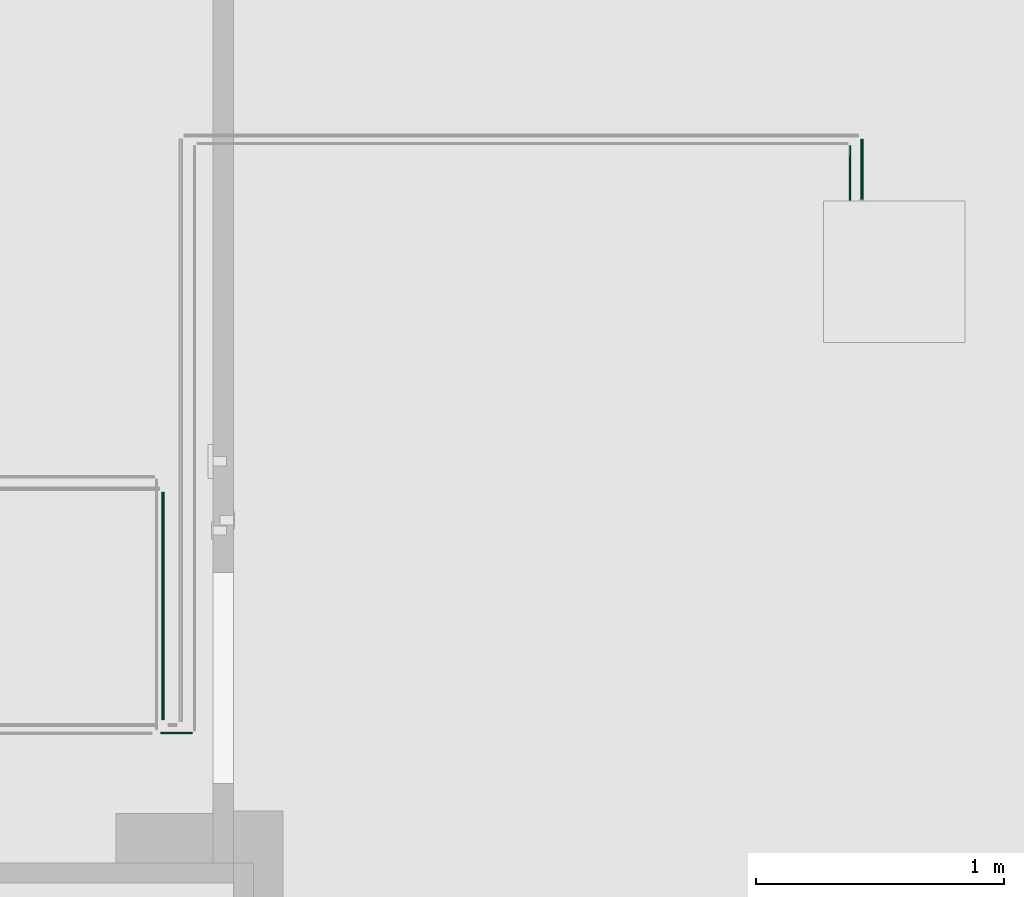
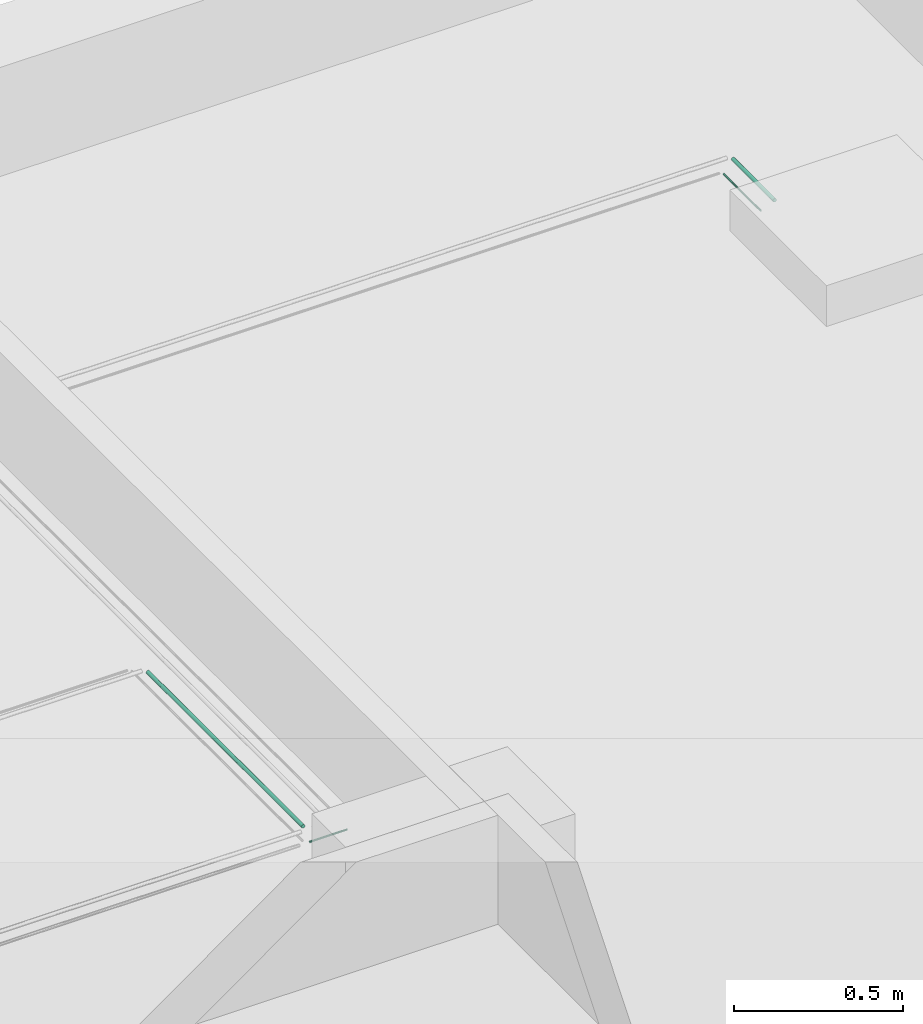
# One storey, part 12 of 22: 4 flow segments.
"""IFC2X3 building model written with IfcOpenShell, lengths in millimetres."""

import ifcopenshell
import ifcopenshell.guid

model = None  # the IFC model being written
_history = None  # IfcOwnerHistory: only IFC2X3 demands one
_inside = {}  # id of a spatial element -> (the spatial element, [elements in it])
_under = {}  # id of a project, library or spatial element -> (it, [spatial elements below it])
_declared = {}  # id of a project -> (the project, [libraries it declares])
_typed = {}  # id of a type object -> (the type object, [elements of that type])
_made_of = {}  # id of a material, layer set ... -> (it, [elements and type objects made of it])


def new_model(schema):
    """Start an empty IFC model of exactly this schema.

    Asked for "IFC4X3", IfcOpenShell would pick the latest addendum, in which some entities
    have other attributes; the version numbers below select the first issue.
    IFC2X3 requires an IfcOwnerHistory on every rooted entity: one is made here for all.
    """
    global model, _history
    if schema == "IFC4X3":
        model = ifcopenshell.file(schema_version=(4, 3, 0, 0))
    else:
        model = ifcopenshell.file(schema=schema)
    _inside.clear()
    _under.clear()
    _declared.clear()
    _typed.clear()
    _made_of.clear()
    _history = None
    if model.schema == "IFC2X3":
        org = make("IfcOrganization", Name="unknown")
        user = make(
            "IfcPersonAndOrganization",
            ThePerson=make("IfcPerson", FamilyName="unknown"),
            TheOrganization=org,
        )
        app = make(
            "IfcApplication",
            ApplicationDeveloper=org,
            Version="unknown",
            ApplicationFullName="unknown",
            ApplicationIdentifier="unknown",
        )
        _history = make(
            "IfcOwnerHistory",
            OwningUser=user,
            OwningApplication=app,
            ChangeAction="ADDED",
            CreationDate=0,
        )
    return model


def make(cls, **values):
    """One entity of the class cls with the attributes given. An attribute that is None is left unset."""
    return model.create_entity(
        cls, **{name: value for name, value in values.items() if value is not None}
    )


def entity(cls, *values):
    """Any entity or typed value of the class cls, its attributes in the order of the schema. None: left unset."""
    e = model.create_entity(cls)
    for i, value in enumerate(values):
        if value is not None:
            e[i] = value
    return e


def rooted(cls, **values):
    """An entity with a GlobalId (a new one), such as an element, a storey or a relation."""
    return make(cls, GlobalId=ifcopenshell.guid.new(), OwnerHistory=_history, **values)


def si_unit(unit_type, name, prefix=None):
    """IfcSIUnit, for example si_unit("LENGTHUNIT", "METRE", prefix="MILLI")."""
    return make("IfcSIUnit", UnitType=unit_type, Prefix=prefix, Name=name)


def converted_unit(unit_type, name, factor, base, dimensions=None, offset=None):
    """IfcConversionBasedUnit, such as the inch: factor (a typed value) times the base unit."""
    return make(
        "IfcConversionBasedUnit"
        if offset is None
        else "IfcConversionBasedUnitWithOffset",
        ConversionOffset=offset,
        Dimensions=None
        if dimensions is None
        else entity("IfcDimensionalExponents", *dimensions),
        UnitType=unit_type,
        Name=name,
        ConversionFactor=make(
            "IfcMeasureWithUnit", ValueComponent=factor, UnitComponent=base
        ),
    )


def derived_unit(unit_type, elements):
    """IfcDerivedUnit: a product of units, each with its exponent."""
    return make(
        "IfcDerivedUnit",
        Elements=[
            make("IfcDerivedUnitElement", Unit=unit, Exponent=power)
            for unit, power in elements
        ],
        UnitType=unit_type,
    )


def assignment(units):
    """IfcUnitAssignment: the units of a project."""
    return None if units is None else make("IfcUnitAssignment", Units=units)


def point(xyz):
    """IfcCartesianPoint."""
    return None if xyz is None else make("IfcCartesianPoint", Coordinates=xyz)


def direction(xyz):
    """IfcDirection."""
    return None if xyz is None else make("IfcDirection", DirectionRatios=xyz)


def frame(location, z_axis=None, x_axis=None):
    """IfcAxis2Placement3D, a coordinate frame: its origin and axes. An axis left out is left unset."""
    return make(
        "IfcAxis2Placement3D",
        Location=point(location),
        Axis=direction(z_axis),
        RefDirection=direction(x_axis),
    )


def frame_2d(location, x_axis=None):
    """IfcAxis2Placement2D, a coordinate frame in the plane: its origin and x axis."""
    return make(
        "IfcAxis2Placement2D", Location=point(location), RefDirection=direction(x_axis)
    )


def origin():
    """The frame at (0, 0, 0) with its axes left unset."""
    return frame((0.0, 0.0, 0.0))


def origin_2d_with_axis():
    """The frame at (0, 0) in the plane with the x axis (1, 0) written out."""
    return frame_2d((0.0, 0.0), x_axis=(1.0, 0.0))


def place(relative_to, where):
    """IfcLocalPlacement: puts the frame where relative to a parent placement (None: the world)."""
    return make(
        "IfcLocalPlacement", PlacementRelTo=relative_to, RelativePlacement=where
    )


def context(
    kind, dimensions, precision=None, world=None, true_north=None, identifier=None
):
    """IfcGeometricRepresentationContext, for example the 3D "Model" context."""
    return make(
        "IfcGeometricRepresentationContext",
        ContextIdentifier=identifier,
        ContextType=kind,
        CoordinateSpaceDimension=dimensions,
        Precision=precision,
        WorldCoordinateSystem=world,
        TrueNorth=true_north,
    )


def subcontext(parent, identifier, kind, view, scale=None):
    """IfcGeometricRepresentationSubContext, for example "Body" below "Model"."""
    return make(
        "IfcGeometricRepresentationSubContext",
        ContextIdentifier=identifier,
        ContextType=kind,
        ParentContext=parent,
        TargetScale=scale,
        TargetView=view,
    )


def project(units=None, contexts=None):
    """IfcProject with its units and contexts."""
    return rooted(
        "IfcProject",
        Name="project",
        RepresentationContexts=contexts,
        UnitsInContext=assignment(units),
    )


def spatial(cls, under=None, at=None, **own):
    """A site, building, storey or space (cls), placed at a placement, below another one or the project."""
    s = rooted(cls, ObjectPlacement=at, **own)
    if under is not None:
        _under.setdefault(under.id(), (under, []))[1].append(s)
    return s


def profile(cls, at=None, kind="AREA", **sizes):
    """A parametric profile (cls). Its sizes go by their IFC names, for example OverallWidth=200.0."""
    return make(cls, ProfileType=kind, Position=at, **sizes)


def circle(**sizes):
    """IfcCircleProfileDef."""
    return profile("IfcCircleProfileDef", **sizes)


def extrude(swept, where, along, depth):
    """IfcExtrudedAreaSolid: the profile swept, set in the frame where, extruded along a direction by depth."""
    return make(
        "IfcExtrudedAreaSolid",
        SweptArea=swept,
        Position=where,
        ExtrudedDirection=direction(along),
        Depth=depth,
    )


def shape(context_of_items, identifier, shape_type, items):
    """IfcShapeRepresentation: the items that make up one representation, for example the "Body"."""
    return make(
        "IfcShapeRepresentation",
        ContextOfItems=context_of_items,
        RepresentationIdentifier=identifier,
        RepresentationType=shape_type,
        Items=items,
    )


def source(mapping_origin, context_of_items, identifier, shape_type, items):
    """IfcRepresentationMap: a shape defined once, which mapped items show again and again."""
    return make(
        "IfcRepresentationMap",
        MappingOrigin=mapping_origin,
        MappedRepresentation=shape(context_of_items, identifier, shape_type, items),
    )


def transform(
    local_origin,
    x_axis=None,
    y_axis=None,
    z_axis=None,
    scale=None,
    scale2=None,
    scale3=None,
    uniform=True,
):
    """IfcCartesianTransformationOperator3D, or its non-uniform kind. x_axis, y_axis, z_axis: its Axis1, 2, 3."""
    if uniform:
        return make(
            "IfcCartesianTransformationOperator3D",
            Axis1=direction(x_axis),
            Axis2=direction(y_axis),
            LocalOrigin=point(local_origin),
            Scale=scale,
            Axis3=direction(z_axis),
        )
    return make(
        "IfcCartesianTransformationOperator3DnonUniform",
        Axis1=direction(x_axis),
        Axis2=direction(y_axis),
        LocalOrigin=point(local_origin),
        Scale=scale,
        Axis3=direction(z_axis),
        Scale2=scale2,
        Scale3=scale3,
    )


def mapped(mapping_source, mapping_target):
    """IfcMappedItem: shows the shape of a source again, moved by a transform."""
    return make(
        "IfcMappedItem", MappingSource=mapping_source, MappingTarget=mapping_target
    )


def material(Name=None, Category=None):
    """IfcMaterial."""
    return make("IfcMaterial", Name=Name, Category=Category)


def made_of(thing, what):
    """Note that an element or type object is made of a material, layer set ...; save() writes the relation."""
    if what is not None:
        _made_of.setdefault(what.id(), (what, []))[1].append(thing)
    return thing


def type_object(cls, material=None, **own):
    """A type object (cls), such as IfcWallType, which elements share."""
    return made_of(rooted(cls, **own), material)


def type_shapes(of_type, sources):
    """Give a type object the sources (RepresentationMaps) that its elements show as mapped items."""
    of_type.RepresentationMaps = sources


def element(
    cls,
    number,
    at=None,
    inside=None,
    cuts=None,
    type_object=None,
    material=None,
    context=None,
    identifier="Body",
    shape_type=None,
    held_by="IfcProductDefinitionShape",
    body=None,
    shapes=None,
    **own,
):
    """One element of the class cls, such as IfcWall. Its Tag is "e" and its number.

    at: its placement. inside: the storey or other place that contains it. cuts: it is an
    opening in that element (IfcRelVoidsElement). A single representation is given by context,
    identifier, shape_type and body (its items); several are given by shapes. held_by: the class
    of the entity that holds the representations. save() writes the other relations.
    """
    e = rooted(cls, Tag="e%d" % number, ObjectPlacement=at, **own)
    if body is not None:
        shapes = [shape(context, identifier, shape_type, body)]
    if shapes is not None:
        e.Representation = make(held_by, Representations=shapes)
    if inside is not None:
        _inside.setdefault(inside.id(), (inside, []))[1].append(e)
    if cuts is not None:
        rooted(
            "IfcRelVoidsElement", RelatingBuildingElement=cuts, RelatedOpeningElement=e
        )
    if type_object is not None:
        _typed.setdefault(type_object.id(), (type_object, []))[1].append(e)
    return made_of(e, material)


def aggregate(whole, parts):
    """IfcRelAggregates: a whole, such as a stair, and the parts it consists of."""
    return rooted("IfcRelAggregates", RelatingObject=whole, RelatedObjects=parts)


def save(model, path):
    """Write the relations noted so far, then the file.

    IfcRelAggregates (storeys below a building ...), IfcRelContainedInSpatialStructure (elements
    in a storey), IfcRelDefinesByType, IfcRelAssociatesMaterial and IfcRelDeclares: one each for
    every whole, place, type object, material and project.
    """
    for whole, parts in _under.values():
        aggregate(whole, parts)
    for where, things in _inside.values():
        rooted(
            "IfcRelContainedInSpatialStructure",
            RelatedElements=things,
            RelatingStructure=where,
        )
    for kind, things in _typed.values():
        rooted("IfcRelDefinesByType", RelatedObjects=things, RelatingType=kind)
    for what, things in _made_of.values():
        rooted("IfcRelAssociatesMaterial", RelatedObjects=things, RelatingMaterial=what)
    for by, libraries in _declared.values():
        rooted("IfcRelDeclares", RelatingContext=by, RelatedDefinitions=libraries)
    model.write(path)


model = new_model("IFC2X3")

# Units and contexts
model_context = context("Model", 3, precision=0.01, world=origin(), true_north=direction((6.123031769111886e-17, 1.0)))
body_context = subcontext(model_context, "Body", "Model", "MODEL_VIEW")
ifc_project = project(units=[si_unit("LENGTHUNIT", "METRE", prefix="MILLI"), si_unit("AREAUNIT", "SQUARE_METRE"), si_unit("VOLUMEUNIT", "CUBIC_METRE"), converted_unit("PLANEANGLEUNIT", "DEGREE", entity("IfcRatioMeasure", 0.017453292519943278), si_unit("PLANEANGLEUNIT", "RADIAN"), dimensions=[0, 0, 0, 0, 0, 0, 0]), si_unit("MASSUNIT", "GRAM", prefix="KILO"), derived_unit("MASSDENSITYUNIT", [(si_unit("MASSUNIT", "GRAM", prefix="KILO"), 1), (si_unit("LENGTHUNIT", "METRE"), -3)]), derived_unit("MOMENTOFINERTIAUNIT", [(si_unit("LENGTHUNIT", "METRE"), 4)]), si_unit("TIMEUNIT", "SECOND"), si_unit("FREQUENCYUNIT", "HERTZ"), si_unit("THERMODYNAMICTEMPERATUREUNIT", "DEGREE_CELSIUS"), derived_unit("THERMALTRANSMITTANCEUNIT", [(si_unit("MASSUNIT", "GRAM", prefix="KILO"), 1), (si_unit("THERMODYNAMICTEMPERATUREUNIT", "KELVIN"), -1), (si_unit("TIMEUNIT", "SECOND"), -3)]), derived_unit("VOLUMETRICFLOWRATEUNIT", [(si_unit("LENGTHUNIT", "METRE"), 3), (si_unit("TIMEUNIT", "SECOND"), -1)]), derived_unit("MASSFLOWRATEUNIT", [(si_unit("MASSUNIT", "GRAM", prefix="KILO"), 1), (si_unit("TIMEUNIT", "SECOND"), -1)]), derived_unit("ROTATIONALFREQUENCYUNIT", [(si_unit("TIMEUNIT", "SECOND"), -1)]), si_unit("ELECTRICCURRENTUNIT", "AMPERE"), si_unit("ELECTRICVOLTAGEUNIT", "VOLT"), si_unit("POWERUNIT", "WATT"), si_unit("FORCEUNIT", "NEWTON", prefix="KILO"), si_unit("ILLUMINANCEUNIT", "LUX"), si_unit("LUMINOUSFLUXUNIT", "LUMEN"), si_unit("LUMINOUSINTENSITYUNIT", "CANDELA"), derived_unit("USERDEFINED", [(si_unit("MASSUNIT", "GRAM", prefix="KILO"), -1), (si_unit("LENGTHUNIT", "METRE"), -2), (si_unit("TIMEUNIT", "SECOND"), 3), (si_unit("LUMINOUSFLUXUNIT", "LUMEN"), 1)]), derived_unit("SOUNDPOWERUNIT", [(si_unit("MASSUNIT", "GRAM", prefix="KILO"), 1), (si_unit("LENGTHUNIT", "METRE"), 2), (si_unit("TIMEUNIT", "SECOND"), -3)]), derived_unit("SOUNDPRESSUREUNIT", [(si_unit("MASSUNIT", "GRAM", prefix="KILO"), 1), (si_unit("LENGTHUNIT", "METRE"), -1), (si_unit("TIMEUNIT", "SECOND"), -2)]), derived_unit("LINEARVELOCITYUNIT", [(si_unit("LENGTHUNIT", "METRE"), 1), (si_unit("TIMEUNIT", "SECOND"), -1)]), si_unit("PRESSUREUNIT", "PASCAL"), derived_unit("USERDEFINED", [(si_unit("LENGTHUNIT", "METRE"), -2), (si_unit("MASSUNIT", "GRAM", prefix="KILO"), 1), (si_unit("TIMEUNIT", "SECOND"), -2)]), derived_unit("LINEARFORCEUNIT", [(si_unit("MASSUNIT", "GRAM", prefix="KILO"), 1), (si_unit("LENGTHUNIT", "METRE"), 1), (si_unit("TIMEUNIT", "SECOND"), -2), (si_unit("LENGTHUNIT", "METRE"), -1)]), derived_unit("PLANARFORCEUNIT", [(si_unit("MASSUNIT", "GRAM", prefix="KILO"), 1), (si_unit("LENGTHUNIT", "METRE"), 1), (si_unit("TIMEUNIT", "SECOND"), -2), (si_unit("LENGTHUNIT", "METRE"), -2)])], contexts=[model_context])

# Site, building, storey
site_placement = place(None, origin())
site = spatial("IfcSite", under=ifc_project, at=site_placement, Name="Default", CompositionType="ELEMENT")
building_placement = place(site_placement, origin())
building = spatial("IfcBuilding", under=site, at=building_placement, CompositionType="ELEMENT")
storey_placement = place(building_placement, frame((0.0, 0.0, 3300.0)))
storey = spatial("IfcBuildingStorey", under=building, at=storey_placement, Name="Level 2", CompositionType="ELEMENT", Elevation=3299.99999999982)

# Flow segments
ifc_material = material(Name="<Unnamed>")
pipe_segment_type_1 = type_object("IfcPipeSegmentType", Name="Pipe Types:Standard:Standard : Pipe Types:Standard", PredefinedType="NOTDEFINED", material=ifc_material)
shared_shape_1 = source(origin(), body_context, "Body", "SweptSolid", [
    extrude(circle(Radius=6.35, at=origin_2d_with_axis()), frame((2619.9468484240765, 3695.27544812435, 6010.0), z_axis=(0.0, 1.0, 0.0), x_axis=(1.0, 0.0, 0.0)), (0.0, 0.0, 1.0), 245.78226284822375),
])
type_shapes(pipe_segment_type_1, [shared_shape_1])
flow_segment_1_placement = place(storey_placement, frame((0.0, 0.0, -3300.0)))
element("IfcFlowSegment", 1, at=flow_segment_1_placement, inside=storey, type_object=pipe_segment_type_1, material=ifc_material, Name="Pipe Types:Standard:Standard : Pipe Types:Standard:Standard:Standard : Pipe Types:Standard : Pipe Types:Standard:Standard : Pipe Types:Standard", ObjectType="Pipe Types:Standard:Standard : Pipe Types:Standard:Standard:Standard : Pipe Types:Standard : Pipe Types:Standard:Standard : Pipe Types:Standard", context=body_context, shape_type="MappedRepresentation", body=[
    mapped(shared_shape_1, transform((0.0, 0.0, 0.0), scale=1.0)),
])
pipe_segment_type_2 = type_object("IfcPipeSegmentType", Name="Pipe Types:Standard:Standard : Pipe Types:Standard", PredefinedType="NOTDEFINED", material=ifc_material)
shared_shape_2 = source(origin(), body_context, "Body", "SweptSolid", [
    extrude(circle(Radius=3.175, at=origin_2d_with_axis()), frame((2571.821848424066, 3693.7004481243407, 5990.0), z_axis=(0.0, 1.0, 0.0), x_axis=(1.0, 0.0, 0.0)), (0.0, 0.0, 1.0), 219.34021511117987),
])
type_shapes(pipe_segment_type_2, [shared_shape_2])
flow_segment_2_placement = place(storey_placement, frame((0.0, 0.0, -3300.0)))
element("IfcFlowSegment", 2, at=flow_segment_2_placement, inside=storey, type_object=pipe_segment_type_2, material=ifc_material, Name="Pipe Types:Standard:Standard : Pipe Types:Standard:Standard:Standard : Pipe Types:Standard : Pipe Types:Standard:Standard : Pipe Types:Standard", ObjectType="Pipe Types:Standard:Standard : Pipe Types:Standard:Standard:Standard : Pipe Types:Standard : Pipe Types:Standard:Standard : Pipe Types:Standard", context=body_context, shape_type="MappedRepresentation", body=[
    mapped(shared_shape_2, transform((0.0, 0.0, 0.0), scale=1.0)),
])
pipe_segment_type_3 = type_object("IfcPipeSegmentType", Name="Pipe Types:Standard:Standard : Pipe Types:Standard", PredefinedType="NOTDEFINED", material=ifc_material)
shared_shape_3 = source(origin(), body_context, "Body", "SweptSolid", [
    extrude(circle(Radius=3.175, at=origin_2d_with_axis()), frame((-207.481125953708, 1545.4722089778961, 5990.0), z_axis=(1.0, 0.0, 0.0), x_axis=(0.0, 1.0, 0.0)), (0.0, 0.0, 1.0), 127.902974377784),
])
type_shapes(pipe_segment_type_3, [shared_shape_3])
flow_segment_3_placement = place(storey_placement, frame((0.0, 0.0, -3300.0)))
element("IfcFlowSegment", 3, at=flow_segment_3_placement, inside=storey, type_object=pipe_segment_type_3, material=ifc_material, Name="Pipe Types:Standard:Standard : Pipe Types:Standard:Standard:Standard : Pipe Types:Standard : Pipe Types:Standard:Standard : Pipe Types:Standard", ObjectType="Pipe Types:Standard:Standard : Pipe Types:Standard:Standard:Standard : Pipe Types:Standard : Pipe Types:Standard:Standard : Pipe Types:Standard", context=body_context, shape_type="MappedRepresentation", body=[
    mapped(shared_shape_3, transform((0.0, 0.0, 0.0), scale=1.0)),
])
pipe_segment_type_4 = type_object("IfcPipeSegmentType", Name="Pipe Types:Standard:Standard : Pipe Types:Standard", PredefinedType="NOTDEFINED", material=ifc_material)
shared_shape_4 = source(origin(), body_context, "Body", "SweptSolid", [
    extrude(circle(Radius=6.35, at=origin_2d_with_axis()), frame((-198.356125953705, 1599.20068455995, 6010.0), z_axis=(0.0, 1.0, 0.0), x_axis=(1.0, 0.0, 0.0)), (0.0, 0.0, 1.0), 917.6736699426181),
])
type_shapes(pipe_segment_type_4, [shared_shape_4])
flow_segment_4_placement = place(storey_placement, frame((0.0, 0.0, -3300.0)))
element("IfcFlowSegment", 4, at=flow_segment_4_placement, inside=storey, type_object=pipe_segment_type_4, material=ifc_material, Name="Pipe Types:Standard:Standard : Pipe Types:Standard:Standard:Standard : Pipe Types:Standard : Pipe Types:Standard:Standard : Pipe Types:Standard", ObjectType="Pipe Types:Standard:Standard : Pipe Types:Standard:Standard:Standard : Pipe Types:Standard : Pipe Types:Standard:Standard : Pipe Types:Standard", context=body_context, shape_type="MappedRepresentation", body=[
    mapped(shared_shape_4, transform((0.0, 0.0, 0.0), scale=1.0)),
])

save(model, "model.ifc")
